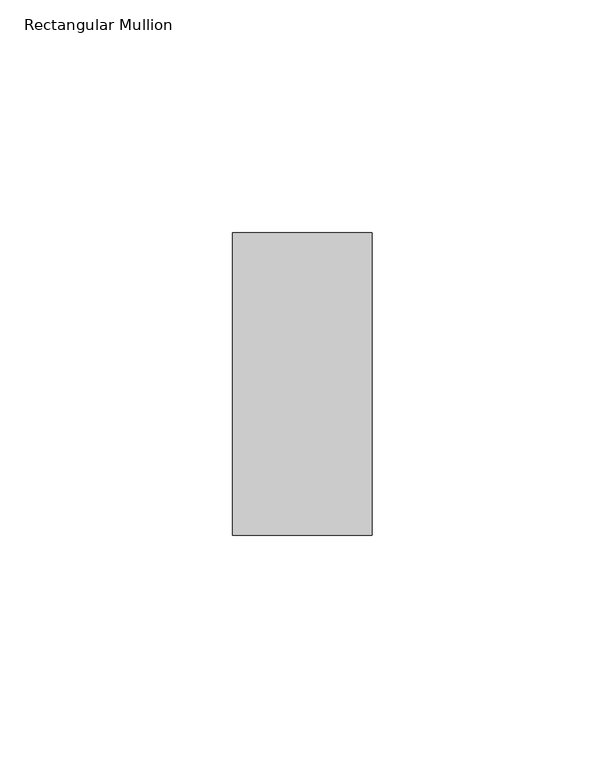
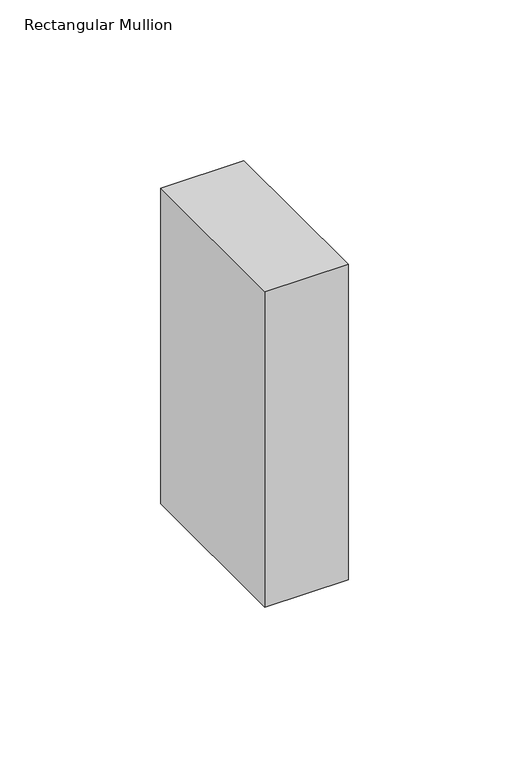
"""IFC4 building model written with IfcOpenShell, lengths in millimetres: member geometry, Rectangular Mullion : Batten_Timber_Modinex_Austratus_Grid_Fascia_30x65_Blackbutt."""

from ifc_helpers import new_model, si_unit, frame, origin, place, context, project, spatial, polyline, outline, extrude, source, transform, mapped, element, save


def rectangular_mullion_f28dea33(model_context):
    return source(origin(), model_context, "Body", "SweptSolid", [
        extrude(outline(polyline([(-15.0, 65.0), (15.0, 65.0), (15.0, 0.0), (-15.0, 0.0), (-15.0, 65.0)])), frame((0.0, 0.0, -120.0), z_axis=(0.0, 0.0, 1.0), x_axis=(1.0, 0.0, 0.0)), (0.0, 0.0, 1.0), 120.0),
    ])


if __name__ == "__main__":
    model = new_model("IFC4")
    model_context = context("Model", 3, world=origin())
    ifc_project = project(units=[si_unit("LENGTHUNIT", "METRE", prefix="MILLI")], contexts=[model_context])
    site = spatial("IfcSite", under=ifc_project)
    building = spatial("IfcBuilding", under=site)
    placement = place(None, origin())
    rectangular_mullion_shape = rectangular_mullion_f28dea33(model_context)
    element("IfcMember", 1, ObjectType="Rectangular Mullion : Batten_Timber_Modinex_Austratus_Grid_Fascia_30x65_Blackbutt", at=placement, inside=building, context=model_context, shape_type="MappedRepresentation", body=[
        mapped(rectangular_mullion_shape, transform((0.0, 0.0, 0.0), x_axis=(1.0, 0.0, 0.0), y_axis=(0.0, 1.0, 0.0), z_axis=(0.0, 0.0, 1.0))),
    ])
    save(model, "model.ifc")
